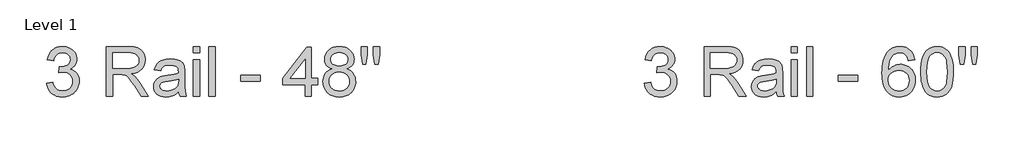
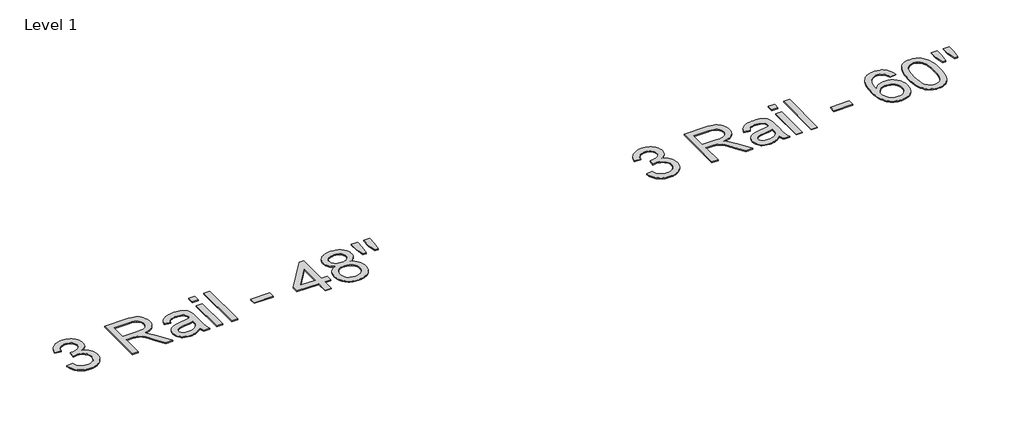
# One storey, part 2 of 3: 2 proxies.
"""IFC4 building model written with IfcOpenShell, lengths in millimetres."""

from ifc_helpers import new_model, si_unit, origin, origin_with_axes, place, context, project, spatial, polyline, outline, extrude, element, save

model = new_model("IFC4")

# Units and contexts
model_context = context("Model", 3, world=origin())
ifc_project = project(units=[si_unit("LENGTHUNIT", "METRE", prefix="MILLI")], contexts=[model_context])

# Site, building, storey
site = spatial("IfcSite", under=ifc_project)
building = spatial("IfcBuilding", under=site)
storey = spatial("IfcBuildingStorey", under=building, Name="Level 1", Elevation=0.0)

# Proxies
placement = place(None, origin())
element("IfcBuildingElementProxy", 1, Name="50\" Arial", ObjectType="50\" Arial", at=placement, inside=storey, context=model_context, shape_type="SweptSolid", body=[
    extrude(outline(polyline([(52131.2034277, -37631.695131), (52289.8321225, -37611.8665441), (52305.5265264, -37665.7561508), (52325.3454314, -37711.5516663), (52349.2888373, -37749.2530907), (52377.3567441, -37778.860424), (52410.1881592, -37801.2256758), (52448.4220896, -37817.2008556), (52492.0585354, -37826.7859635), (52541.0974965, -37829.9809995), (52598.5694162, -37825.5854046), (52649.8449025, -37812.3986198), (52694.9239555, -37790.4206451), (52733.806575, -37759.6514805), (52765.1179275, -37722.3954247), (52787.4831793, -37680.9567764), (52800.9023303, -37635.3355356), (52805.3753807, -37585.5317022), (52800.941058, -37538.099941), (52787.6380901, -37494.9475916), (52765.4664769, -37456.074654), (52734.4262183, -37421.4811282), (52696.5505192, -37393.0840358), (52653.8725842, -37372.8003983), (52606.3924134, -37360.6302159), (52554.1100066, -37356.5734884), (52503.9963516, -37360.9109918), (52442.8840273, -37373.9235019), (52460.5438624, -37215.294807), (52485.9492393, -37217.1537371), (52534.7267884, -37214.3072505), (52580.9870365, -37205.7677907), (52624.7299835, -37191.5353578), (52665.9556294, -37171.6099516), (52700.9267503, -37145.7785699), (52725.9061224, -37113.8282103), (52740.8937457, -37075.7588726), (52745.8896201, -37031.570557), (52742.2685793, -36995.6990168), (52731.4054571, -36963.0612403), (52713.3002532, -36933.6572275), (52687.9529679, -36907.4869783), (52656.8933455, -36886.0027819), (52621.6511306, -36870.6569273), (52582.2263232, -36861.4494146), (52538.6189232, -36858.3802437), (52495.1277063, -36861.4784604), (52455.4318049, -36870.7731105), (52419.5312189, -36886.264194), (52387.4259484, -36907.9517108), (52359.9099114, -36935.8356611), (52337.7770259, -36969.9160447), (52321.0272918, -37010.1928618), (52309.6607093, -37056.6661122), (52151.0320145, -37036.8375254), (52169.8343171, -36961.105491), (52197.7376312, -36894.3970128), (52234.7419569, -36836.7120907), (52256.656999, -36811.2534632), (52280.8472941, -36788.0507247), (52334.6013537, -36749.4198353), (52394.5518468, -36721.8263428), (52460.6987733, -36705.2702473), (52533.0421331, -36699.7515489), (52583.9206604, -36702.4721704), (52632.765983, -36710.634035), (52679.5781009, -36724.2371427), (52724.3570141, -36743.2814934), (52765.5439323, -36767.0409427), (52801.5800652, -36794.789346), (52832.4654129, -36826.5267033), (52858.1999753, -36862.2530146), (52878.4642489, -36900.5450365), (52892.93873, -36939.9795259), (52901.6234187, -36980.5564827), (52904.5183149, -37022.2759069), (52901.7686476, -37061.5070758), (52893.5196457, -37098.9567701), (52879.7713091, -37134.6249898), (52860.5236379, -37168.5117349), (52835.8928151, -37199.8230874), (52805.995024, -37227.7651292), (52770.8302645, -37252.3378604), (52730.3985366, -37273.5412809), (52783.261859, -37290.0780125), (52829.6963817, -37313.6631871), (52869.7021048, -37344.2968047), (52903.2790283, -37381.9788653), (52929.8462364, -37425.7799038), (52948.8228137, -37474.7704553), (52960.20876, -37528.9505198), (52964.0040755, -37588.3200972), (52962.1064178, -37629.3521046), (52956.4134446, -37668.7962759), (52946.925156, -37706.6526112), (52933.6415519, -37742.9211104), (52916.5626323, -37777.6017735), (52895.6883974, -37810.6946006), (52871.0188469, -37842.1995916), (52842.553981, -37872.1167466), (52811.1893779, -37899.4197812), (52777.8206159, -37923.0824112), (52742.447695, -37943.1046366), (52705.0706151, -37959.4864574), (52665.6893764, -37972.2278736), (52624.3039787, -37981.3288851), (52580.914422, -37986.789492), (52535.5207065, -37988.6096943), (52494.508063, -37987.055745), (52455.276894, -37982.3938971), (52417.8271997, -37974.6241505), (52382.15898, -37963.7465053), (52348.2722349, -37949.7609615), (52316.1669644, -37932.6675191), (52285.8431685, -37912.4661781), (52257.3008472, -37889.1569384), (52231.135439, -37863.3788073), (52207.9423824, -37835.770792), (52187.7216775, -37806.3328924), (52170.4733243, -37775.0651086), (52156.1973227, -37741.9674405), (52144.8936727, -37707.0398882), (52136.5623743, -37670.2824517), (52131.2034277, -37631.695131)])), origin_with_axes(), (0.0, 0.0, 1.0), 25.4),
    extrude(outline(polyline([(53658.0046154, -37968.7811075), (53658.0046154, -36699.7515489), (54204.8398622, -36699.7515489), (54283.3312458, -36701.8912548), (54351.8115167, -36708.3103725), (54410.2806749, -36719.008902), (54458.7387204, -36733.9868433), (54500.003094, -36754.3963458), (54536.8912366, -36781.3895588), (54569.403148, -36814.9664822), (54597.5388284, -36855.1271162), (54620.2429476, -36899.7123908), (54636.4601756, -36946.5632364), (54646.1905124, -36995.6796529), (54649.433958, -37047.0616405), (54644.0604885, -37112.2403742), (54627.9400797, -37172.0746841), (54601.0727318, -37226.5645703), (54563.4584447, -37275.7100326), (54540.5001749, -37297.8864868), (54514.6131221, -37317.942599), (54485.7972864, -37335.878369), (54454.0526677, -37351.6937971), (54381.7770813, -37376.963627), (54297.7863631, -37393.7520887), (54350.0687698, -37427.9099278), (54387.9444689, -37461.6030344), (54452.9295641, -37538.6711747), (54516.5204618, -37624.8790542), (54728.1286621, -37968.7811075), (54543.7847687, -37968.7811075), (54378.6498188, -37705.74251), (54312.5803478, -37605.3602891), (54259.368476, -37531.6227317), (54215.0252496, -37480.8507056), (54175.5617144, -37449.3650784), (54138.1894755, -37430.8919614), (54100.1201379, -37419.1574656), (54063.0189929, -37414.9748731), (54008.103102, -37413.5806756), (53816.6333102, -37413.5806756), (53816.6333102, -37968.7811075), (53658.0046154, -37968.7811075)]), holes=[polyline([(53816.6333102, -37254.9519808), (54171.6889435, -37254.9519808), (54273.6590005, -37249.336463), (54316.0755235, -37242.3170658), (54352.7797094, -37232.4899097), (54384.5945221, -37219.5742189), (54412.3429254, -37203.2892174), (54436.0249193, -37183.6349052), (54455.6405037, -37160.6112824), (54471.025086, -37135.3511344), (54482.0140733, -37108.9872467), (54488.6074657, -37081.5196193), (54490.8052632, -37052.9482522), (54486.6129887, -37012.3809773), (54474.0361653, -36975.5702902), (54453.074793, -36942.5161908), (54423.7288717, -36913.2186792), (54385.3206666, -36889.2268637), (54337.1724428, -36872.0898526), (54279.2842002, -36861.8076459), (54211.6559389, -36858.3802437), (53816.6333102, -36858.3802437), (53816.6333102, -37254.9519808)])]), origin_with_axes(), (0.0, 0.0, 1.0), 25.4),
    extrude(outline(polyline([(55502.0631927, -37849.8095864), (55464.4489057, -37885.1098928), (55426.2730668, -37914.7946816), (55387.5356762, -37938.8639525), (55348.2367338, -37957.3177057), (55307.930871, -37971.0079507), (55266.1727191, -37980.7866972), (55222.9622781, -37986.653945), (55178.299548, -37988.6096943), (55107.6698893, -37983.9042777), (55045.7346011, -37969.7880279), (54992.4936836, -37946.2609449), (54969.1336138, -37930.9683409), (54947.9471367, -37913.3230286), (54912.7726953, -37873.0655754), (54887.6480942, -37827.5798816), (54872.5733336, -37776.865947), (54867.5484134, -37720.9237718), (54869.4460712, -37687.2887568), (54875.1390443, -37655.1641224), (54884.627333, -37624.5498687), (54897.910937, -37595.4459956), (54914.2830759, -37568.4915104), (54933.0369688, -37544.3254201), (54954.1726159, -37522.9477249), (54977.690017, -37504.3584248), (55030.1660623, -37474.150812), (55088.7610855, -37452.3083843), (55145.8457281, -37440.1478837), (55226.0120851, -37428.4521157), (55388.2037292, -37403.3565605), (55450.8264341, -37389.1822191), (55501.1337277, -37373.9235019), (55502.0631927, -37338.6038315), (55499.3328893, -37300.1472168), (55491.1419789, -37267.80958), (55477.4904616, -37241.5909213), (55458.3783373, -37221.4912404), (55425.3436018, -37201.4302873), (55385.1055125, -37187.1010351), (55337.6640693, -37178.5034838), (55283.0192723, -37175.6376333), (55232.2085185, -37177.544973), (55188.5236631, -37183.266992), (55151.9647061, -37192.8036902), (55122.5316475, -37206.1550678), (55098.3461934, -37224.3667728), (55077.53005, -37248.4844534), (55060.0832172, -37278.5081096), (55046.0056951, -37314.4377413), (54887.3770003, -37294.6091545), (54899.4503635, -37248.9104582), (54914.9124012, -37207.859087), (54933.7631134, -37171.4550408), (54956.0025001, -37139.6983197), (54982.5890721, -37111.9499164), (55014.4813402, -37087.5708238), (55051.6793044, -37066.5610418), (55094.1829647, -37048.9205705), (55141.1306296, -37034.9592315), (55191.6606075, -37024.9868465), (55245.7728985, -37019.0034155), (55303.4675025, -37017.0089385), (55359.8647283, -37018.7710493), (55410.7045279, -37024.0573815), (55455.9869013, -37032.8679352), (55495.7118485, -37045.2027104), (55530.208555, -37060.2000156), (55559.8062064, -37076.9981593), (55584.5048026, -37095.5971414), (55604.3043437, -37115.9969619), (55620.356979, -37138.7010812), (55633.8148577, -37164.2129593), (55644.67798, -37192.5325963), (55652.9463458, -37223.6599921), (55658.7555021, -37278.4984276), (55660.6918876, -37362.4601001), (55660.6918876, -37559.8165036), (55662.7057284, -37731.7288025), (55668.747251, -37835.4028787), (55680.6753853, -37903.5249183), (55700.3490613, -37968.7811075), (55541.7203664, -37968.7811075), (55527.6234805, -37942.2913547), (55516.3149895, -37913.6328503), (55507.7948936, -37882.8055942), (55502.0631927, -37849.8095864)]), holes=[polyline([(55502.0631927, -37532.5521967), (55454.1182894, -37546.2811694), (55395.4845384, -37558.964494), (55246.1504937, -37581.1941988), (55163.8541127, -37593.3546994), (55109.6740482, -37606.9093974), (55074.1607393, -37624.4917772), (55047.8646251, -37648.7353228), (55031.5989875, -37677.7811043), (55026.1771083, -37709.7701917), (55029.130096, -37734.4203783), (55037.9890594, -37756.9405409), (55052.7539983, -37777.3306795), (55073.4249129, -37795.5907942), (55099.8081644, -37810.636509), (55131.7101145, -37821.3834482), (55169.130763, -37827.8316117), (55212.07011, -37829.9809995), (55255.9098763, -37827.6089273), (55297.2710691, -37820.4927109), (55336.1536887, -37808.6323501), (55372.5577349, -37792.027845), (55405.3988318, -37772.0540292), (55433.5926038, -37750.0857365), (55457.1390506, -37726.1229667), (55476.0381725, -37700.1657199), (55487.0174779, -37676.9290947), (55494.8598389, -37648.7353228), (55499.5652555, -37615.5844042), (55501.1337277, -37577.4763388), (55502.0631927, -37532.5521967)])]), origin_with_axes(), (0.0, 0.0, 1.0), 25.4),
    extrude(outline(polyline([(55878.806343, -36858.3802437), (55878.806343, -36699.7515489), (56037.4350378, -36699.7515489), (56037.4350378, -36858.3802437), (55878.806343, -36858.3802437)])), origin_with_axes(), (0.0, 0.0, 1.0), 25.4),
    extrude(outline(polyline([(55878.806343, -37968.7811075), (55878.806343, -37036.8375254), (56037.4350378, -37036.8375254), (56037.4350378, -37968.7811075), (55878.806343, -37968.7811075)])), origin_with_axes(), (0.0, 0.0, 1.0), 25.4),
    extrude(outline(polyline([(56275.37808, -37968.7811075), (56275.37808, -36699.7515489), (56434.0067748, -36699.7515489), (56434.0067748, -37968.7811075), (56275.37808, -37968.7811075)])), origin_with_axes(), (0.0, 0.0, 1.0), 25.4),
    extrude(outline(polyline([(57088.350141, -37592.0379573), (57088.350141, -37433.4092624), (57584.0648123, -37433.4092624), (57584.0648123, -37592.0379573), (57088.350141, -37592.0379573)])), origin_with_axes(), (0.0, 0.0, 1.0), 25.4),
    extrude(outline(polyline([(58734.1228498, -37968.7811075), (58734.1228498, -37671.3523047), (58159.0938311, -37671.3523047), (58159.0938311, -37512.7236099), (58773.7800235, -36719.5801357), (58892.7515447, -36719.5801357), (58892.7515447, -37512.7236099), (59051.3802395, -37512.7236099), (59051.3802395, -37671.3523047), (58892.7515447, -37671.3523047), (58892.7515447, -37968.7811075), (58734.1228498, -37968.7811075)]), holes=[polyline([(58734.1228498, -37512.7236099), (58734.1228498, -37022.5857286), (58354.2814829, -37512.7236099), (58734.1228498, -37512.7236099)])]), origin_with_axes(), (0.0, 0.0, 1.0), 25.4),
    extrude(outline(polyline([(59421.307313, -37269.8234209), (59375.6763902, -37250.7693882), (59336.3774478, -37227.9974955), (59303.4104858, -37201.5077428), (59276.7755041, -37171.30013), (59256.2401366, -37137.665115), (59241.5720169, -37100.8931556), (59232.7711451, -37060.9842517), (59229.8375212, -37017.9384035), (59231.4350392, -36984.9181909), (59236.2275931, -36953.2437661), (59244.215183, -36922.9151293), (59255.3978089, -36893.9322803), (59269.7754708, -36866.2952192), (59287.3481686, -36840.0039459), (59308.1159024, -36815.0584605), (59332.0786721, -36791.4587631), (59358.6991309, -36769.9648847), (59387.4399317, -36751.3368568), (59418.3010746, -36735.5746794), (59451.2825595, -36722.6783524), (59486.3843865, -36712.6478759), (59523.6065555, -36705.4832497), (59604.4119197, -36699.7515489), (59685.604561, -36705.6187967), (59723.0784601, -36712.9528566), (59758.4707449, -36723.2205403), (59791.7814153, -36736.421848), (59823.0104715, -36752.5567797), (59852.1579132, -36771.6253352), (59879.2237406, -36793.6275147), (59903.6221971, -36817.7355134), (59924.7675261, -36843.1215265), (59942.6597275, -36869.7855539), (59957.2988014, -36897.7275957), (59968.6847477, -36926.9476519), (59976.8175665, -36957.4457225), (59981.6972578, -36989.2218075), (59983.3238216, -37022.2759069), (59980.4289254, -37063.8016925), (59971.7442367, -37102.558447), (59957.2697556, -37138.5461703), (59937.005482, -37171.7648625), (59910.8545967, -37201.7691548), (59878.7202804, -37228.1136786), (59840.6025331, -37250.798434), (59796.5013548, -37269.8234209), (59848.6385327, -37292.0047161), (59894.1339085, -37320.1307145), (59932.9874822, -37354.2014162), (59965.1992539, -37394.2168212), (59990.4787658, -37439.2861922), (60008.53556, -37488.5187919), (60019.3696365, -37541.9146203), (60022.9809953, -37599.4736773), (60021.1898388, -37639.8569956), (60015.8163692, -37678.5943862), (60006.8605866, -37715.6858492), (59994.3224909, -37751.1313846), (59978.2020821, -37784.9309924), (59958.4993603, -37817.0846725), (59935.2143255, -37847.592425), (59908.3469776, -37876.4542499), (59878.5556877, -37902.7406822), (59846.4988268, -37925.5222569), (59812.1763949, -37944.7989739), (59775.5883921, -37960.5708332), (59736.7348184, -37972.837835), (59695.6156737, -37981.5999791), (59652.230958, -37986.8572655), (59606.5806714, -37988.6096943), (59560.9303848, -37986.8500041), (59517.5456691, -37981.5709333), (59476.4265244, -37972.772482), (59437.5729506, -37960.4546501), (59400.9849478, -37944.6174377), (59366.662516, -37925.2608448), (59334.6056551, -37902.3848714), (59304.8143652, -37875.9895174), (59277.9470173, -37846.9655203), (59254.6619825, -37816.2036171), (59234.9592607, -37783.7038081), (59218.8388519, -37749.4660931), (59206.3007562, -37713.4904722), (59197.3449736, -37675.7769454), (59191.971504, -37636.3255126), (59190.1803475, -37595.136174), (59193.9369352, -37534.9533146), (59205.2066984, -37479.8825129), (59223.9896372, -37429.9237687), (59250.2857514, -37385.077082), (59283.5141254, -37346.1557347), (59323.0938437, -37313.9730088), (59369.0249062, -37288.5289042), (59421.307313, -37269.8234209)]), holes=[polyline([(59388.466216, -37022.5857286), (59391.9807556, -37058.951047), (59402.5243743, -37091.8308717), (59420.0970721, -37121.2252026), (59444.698849, -37147.1340397), (59476.0198834, -37168.2793687), (59513.7503536, -37183.3831751), (59557.8902596, -37192.4454589), (59608.4396014, -37195.4662202), (59657.7399746, -37192.4648228), (59700.9213698, -37183.4606305), (59737.983787, -37168.4536434), (59768.9272263, -37147.4438614), (59793.3256827, -37122.0772122), (59810.7531516, -37093.9996234), (59821.209633, -37063.211095), (59824.6951268, -37029.711627), (59821.0934499, -36994.9050988), (59810.2884191, -36962.9837849), (59792.2800346, -36933.9476853), (59767.0682962, -36907.7968), (59735.4277582, -36886.1770566), (59698.1329748, -36870.7343828), (59655.1839458, -36861.4687785), (59606.5806714, -36858.3802437), (59557.5998018, -36861.401005), (59514.4474524, -36870.4632888), (59477.1236231, -36885.5670952), (59445.628314, -36906.7124241), (59420.6198962, -36932.0790733), (59402.7567405, -36959.8468405), (59392.0388471, -36990.0157256), (59388.466216, -37022.5857286)]), polyline([(59348.8090423, -37589.5593839), (59350.4646518, -37620.1445919), (59355.4314805, -37650.2457034), (59363.7095282, -37679.8627187), (59375.298795, -37708.9956375), (59391.0900183, -37736.2502625), (59411.9739352, -37760.2323961), (59437.9505458, -37780.9420384), (59469.0198501, -37798.3791892), (59502.9065952, -37812.2049812), (59537.3355282, -37822.0805469), (59572.3066492, -37828.0058864), (59607.8199581, -37829.9809995), (59665.1756947, -37825.8274527), (59715.7928099, -37813.3668125), (59759.6713039, -37792.5990787), (59796.8111765, -37763.5242514), (59826.3604183, -37728.0399883), (59847.4670195, -37688.0439471), (59860.1309802, -37643.5361279), (59864.3523005, -37594.5165306), (59859.9954333, -37544.7126972), (59846.9248316, -37499.4012781), (59825.1404954, -37458.5822731), (59794.6424248, -37422.2556823), (59756.4956318, -37392.4353466), (59711.7651282, -37371.1351068), (59660.4509142, -37358.354963), (59602.5529897, -37354.094915), (59546.0395808, -37358.2968714), (59496.0905185, -37370.9027406), (59452.7058028, -37391.9125226), (59415.8854338, -37421.3262173), (59386.5395125, -37457.0525286), (59365.5781402, -37497.0001601), (59353.0013168, -37541.1691119), (59348.8090423, -37589.5593839)])]), origin_with_axes(), (0.0, 0.0, 1.0), 25.4),
    extrude(outline(polyline([(60200.508812, -37155.8090465), (60161.7811033, -36910.7401058), (60161.7811033, -36699.7515489), (60320.4097981, -36699.7515489), (60320.4097981, -36910.7401058), (60285.7097711, -37155.8090465), (60200.508812, -37155.8090465)])), origin_with_axes(), (0.0, 0.0, 1.0), 25.4),
    extrude(outline(polyline([(60516.8367366, -37155.8090465), (60479.0384929, -36910.7401058), (60479.0384929, -36699.7515489), (60637.6671878, -36699.7515489), (60637.6671878, -36910.7401058), (60600.4885874, -37155.8090465), (60516.8367366, -37155.8090465)])), origin_with_axes(), (0.0, 0.0, 1.0), 25.4),
])
element("IfcBuildingElementProxy", 2, Name="50\" Arial", ObjectType="50\" Arial", at=placement, inside=storey, context=model_context, shape_type="SweptSolid", body=[
    extrude(outline(polyline([(67396.6034277, -37631.695131), (67555.2321225, -37611.8665441), (67570.9265264, -37665.7561508), (67590.7454314, -37711.5516663), (67614.6888373, -37749.2530907), (67642.7567441, -37778.860424), (67675.5881592, -37801.2256758), (67713.8220896, -37817.2008556), (67757.4585354, -37826.7859635), (67806.4974965, -37829.9809995), (67863.9694162, -37825.5854046), (67915.2449025, -37812.3986198), (67960.3239555, -37790.4206451), (67999.206575, -37759.6514805), (68030.5179275, -37722.3954247), (68052.8831793, -37680.9567764), (68066.3023303, -37635.3355356), (68070.7753807, -37585.5317022), (68066.341058, -37538.099941), (68053.0380901, -37494.9475916), (68030.8664769, -37456.074654), (67999.8262183, -37421.4811282), (67961.9505192, -37393.0840358), (67919.2725842, -37372.8003983), (67871.7924134, -37360.6302159), (67819.5100066, -37356.5734884), (67769.3963516, -37360.9109918), (67708.2840273, -37373.9235019), (67725.9438624, -37215.294807), (67751.3492393, -37217.1537371), (67800.1267884, -37214.3072505), (67846.3870365, -37205.7677907), (67890.1299835, -37191.5353578), (67931.3556294, -37171.6099516), (67966.3267503, -37145.7785699), (67991.3061224, -37113.8282103), (68006.2937457, -37075.7588726), (68011.2896201, -37031.570557), (68007.6685793, -36995.6990168), (67996.8054571, -36963.0612403), (67978.7002532, -36933.6572275), (67953.3529679, -36907.4869783), (67922.2933455, -36886.0027819), (67887.0511306, -36870.6569273), (67847.6263232, -36861.4494146), (67804.0189232, -36858.3802437), (67760.5277063, -36861.4784604), (67720.8318049, -36870.7731105), (67684.9312189, -36886.264194), (67652.8259484, -36907.9517108), (67625.3099114, -36935.8356611), (67603.1770259, -36969.9160447), (67586.4272918, -37010.1928618), (67575.0607093, -37056.6661122), (67416.4320145, -37036.8375254), (67435.2343171, -36961.105491), (67463.1376312, -36894.3970128), (67500.1419569, -36836.7120907), (67522.056999, -36811.2534632), (67546.2472941, -36788.0507247), (67600.0013537, -36749.4198353), (67659.9518468, -36721.8263428), (67726.0987733, -36705.2702473), (67798.4421331, -36699.7515489), (67849.3206604, -36702.4721704), (67898.165983, -36710.634035), (67944.9781009, -36724.2371427), (67989.7570141, -36743.2814934), (68030.9439323, -36767.0409427), (68066.9800652, -36794.789346), (68097.8654129, -36826.5267033), (68123.5999753, -36862.2530146), (68143.8642489, -36900.5450365), (68158.33873, -36939.9795259), (68167.0234187, -36980.5564827), (68169.9183149, -37022.2759069), (68167.1686476, -37061.5070758), (68158.9196457, -37098.9567701), (68145.1713091, -37134.6249898), (68125.9236379, -37168.5117349), (68101.2928151, -37199.8230874), (68071.395024, -37227.7651292), (68036.2302645, -37252.3378604), (67995.7985366, -37273.5412809), (68048.661859, -37290.0780125), (68095.0963817, -37313.6631871), (68135.1021048, -37344.2968047), (68168.6790283, -37381.9788653), (68195.2462364, -37425.7799038), (68214.2228137, -37474.7704553), (68225.60876, -37528.9505198), (68229.4040755, -37588.3200972), (68227.5064178, -37629.3521046), (68221.8134446, -37668.7962759), (68212.325156, -37706.6526112), (68199.0415519, -37742.9211104), (68181.9626323, -37777.6017735), (68161.0883974, -37810.6946006), (68136.4188469, -37842.1995916), (68107.953981, -37872.1167466), (68076.5893779, -37899.4197812), (68043.2206159, -37923.0824112), (68007.847695, -37943.1046366), (67970.4706151, -37959.4864574), (67931.0893764, -37972.2278736), (67889.7039787, -37981.3288851), (67846.314422, -37986.789492), (67800.9207065, -37988.6096943), (67759.908063, -37987.055745), (67720.676894, -37982.3938971), (67683.2271997, -37974.6241505), (67647.55898, -37963.7465053), (67613.6722349, -37949.7609615), (67581.5669644, -37932.6675191), (67551.2431685, -37912.4661781), (67522.7008472, -37889.1569384), (67496.535439, -37863.3788073), (67473.3423824, -37835.770792), (67453.1216775, -37806.3328924), (67435.8733243, -37775.0651086), (67421.5973227, -37741.9674405), (67410.2936727, -37707.0398882), (67401.9623743, -37670.2824517), (67396.6034277, -37631.695131)])), origin_with_axes(), (0.0, 0.0, 1.0), 25.4),
    extrude(outline(polyline([(68923.4046154, -37968.7811075), (68923.4046154, -36699.7515489), (69470.2398622, -36699.7515489), (69548.7312458, -36701.8912548), (69617.2115167, -36708.3103725), (69675.6806749, -36719.008902), (69724.1387204, -36733.9868433), (69765.403094, -36754.3963458), (69802.2912366, -36781.3895588), (69834.803148, -36814.9664822), (69862.9388284, -36855.1271162), (69885.6429476, -36899.7123908), (69901.8601756, -36946.5632364), (69911.5905124, -36995.6796529), (69914.833958, -37047.0616405), (69909.4604885, -37112.2403742), (69893.3400797, -37172.0746841), (69866.4727318, -37226.5645703), (69828.8584447, -37275.7100326), (69805.9001749, -37297.8864868), (69780.0131221, -37317.942599), (69751.1972864, -37335.878369), (69719.4526677, -37351.6937971), (69647.1770813, -37376.963627), (69563.1863631, -37393.7520887), (69615.4687698, -37427.9099278), (69653.3444689, -37461.6030344), (69718.3295641, -37538.6711747), (69781.9204618, -37624.8790542), (69993.5286621, -37968.7811075), (69809.1847687, -37968.7811075), (69644.0498188, -37705.74251), (69577.9803478, -37605.3602891), (69524.768476, -37531.6227317), (69480.4252496, -37480.8507056), (69440.9617144, -37449.3650784), (69403.5894755, -37430.8919614), (69365.5201379, -37419.1574656), (69328.4189929, -37414.9748731), (69273.503102, -37413.5806756), (69082.0333102, -37413.5806756), (69082.0333102, -37968.7811075), (68923.4046154, -37968.7811075)]), holes=[polyline([(69082.0333102, -37254.9519808), (69437.0889435, -37254.9519808), (69539.0590005, -37249.336463), (69581.4755235, -37242.3170658), (69618.1797094, -37232.4899097), (69649.9945221, -37219.5742189), (69677.7429254, -37203.2892174), (69701.4249193, -37183.6349052), (69721.0405037, -37160.6112824), (69736.425086, -37135.3511344), (69747.4140733, -37108.9872467), (69754.0074657, -37081.5196193), (69756.2052632, -37052.9482522), (69752.0129887, -37012.3809773), (69739.4361653, -36975.5702902), (69718.474793, -36942.5161908), (69689.1288717, -36913.2186792), (69650.7206666, -36889.2268637), (69602.5724428, -36872.0898526), (69544.6842002, -36861.8076459), (69477.0559389, -36858.3802437), (69082.0333102, -36858.3802437), (69082.0333102, -37254.9519808)])]), origin_with_axes(), (0.0, 0.0, 1.0), 25.4),
    extrude(outline(polyline([(70767.4631927, -37849.8095864), (70729.8489057, -37885.1098928), (70691.6730668, -37914.7946816), (70652.9356762, -37938.8639525), (70613.6367338, -37957.3177057), (70573.330871, -37971.0079507), (70531.5727191, -37980.7866972), (70488.3622781, -37986.653945), (70443.699548, -37988.6096943), (70373.0698893, -37983.9042777), (70311.1346011, -37969.7880279), (70257.8936836, -37946.2609449), (70234.5336138, -37930.9683409), (70213.3471367, -37913.3230286), (70178.1726953, -37873.0655754), (70153.0480942, -37827.5798816), (70137.9733336, -37776.865947), (70132.9484134, -37720.9237718), (70134.8460712, -37687.2887568), (70140.5390443, -37655.1641224), (70150.027333, -37624.5498687), (70163.310937, -37595.4459956), (70179.6830759, -37568.4915104), (70198.4369688, -37544.3254201), (70219.5726159, -37522.9477249), (70243.090017, -37504.3584248), (70295.5660623, -37474.150812), (70354.1610855, -37452.3083843), (70411.2457281, -37440.1478837), (70491.4120851, -37428.4521157), (70653.6037292, -37403.3565605), (70716.2264341, -37389.1822191), (70766.5337277, -37373.9235019), (70767.4631927, -37338.6038315), (70764.7328893, -37300.1472168), (70756.5419789, -37267.80958), (70742.8904616, -37241.5909213), (70723.7783373, -37221.4912404), (70690.7436018, -37201.4302873), (70650.5055125, -37187.1010351), (70603.0640693, -37178.5034838), (70548.4192723, -37175.6376333), (70497.6085185, -37177.544973), (70453.9236631, -37183.266992), (70417.3647061, -37192.8036902), (70387.9316475, -37206.1550678), (70363.7461934, -37224.3667728), (70342.93005, -37248.4844534), (70325.4832172, -37278.5081096), (70311.4056951, -37314.4377413), (70152.7770003, -37294.6091545), (70164.8503635, -37248.9104582), (70180.3124012, -37207.859087), (70199.1631134, -37171.4550408), (70221.4025001, -37139.6983197), (70247.9890721, -37111.9499164), (70279.8813402, -37087.5708238), (70317.0793044, -37066.5610418), (70359.5829647, -37048.9205705), (70406.5306296, -37034.9592315), (70457.0606075, -37024.9868465), (70511.1728985, -37019.0034155), (70568.8675025, -37017.0089385), (70625.2647283, -37018.7710493), (70676.1045279, -37024.0573815), (70721.3869013, -37032.8679352), (70761.1118485, -37045.2027104), (70795.608555, -37060.2000156), (70825.2062064, -37076.9981593), (70849.9048026, -37095.5971414), (70869.7043437, -37115.9969619), (70885.756979, -37138.7010812), (70899.2148577, -37164.2129593), (70910.07798, -37192.5325963), (70918.3463458, -37223.6599921), (70924.1555021, -37278.4984276), (70926.0918876, -37362.4601001), (70926.0918876, -37559.8165036), (70928.1057284, -37731.7288025), (70934.147251, -37835.4028787), (70946.0753853, -37903.5249183), (70965.7490613, -37968.7811075), (70807.1203664, -37968.7811075), (70793.0234805, -37942.2913547), (70781.7149895, -37913.6328503), (70773.1948936, -37882.8055942), (70767.4631927, -37849.8095864)]), holes=[polyline([(70767.4631927, -37532.5521967), (70719.5182894, -37546.2811694), (70660.8845384, -37558.964494), (70511.5504937, -37581.1941988), (70429.2541127, -37593.3546994), (70375.0740482, -37606.9093974), (70339.5607393, -37624.4917772), (70313.2646251, -37648.7353228), (70296.9989875, -37677.7811043), (70291.5771083, -37709.7701917), (70294.530096, -37734.4203783), (70303.3890594, -37756.9405409), (70318.1539983, -37777.3306795), (70338.8249129, -37795.5907942), (70365.2081644, -37810.636509), (70397.1101145, -37821.3834482), (70434.530763, -37827.8316117), (70477.47011, -37829.9809995), (70521.3098763, -37827.6089273), (70562.6710691, -37820.4927109), (70601.5536887, -37808.6323501), (70637.9577349, -37792.027845), (70670.7988318, -37772.0540292), (70698.9926038, -37750.0857365), (70722.5390506, -37726.1229667), (70741.4381725, -37700.1657199), (70752.4174779, -37676.9290947), (70760.2598389, -37648.7353228), (70764.9652555, -37615.5844042), (70766.5337277, -37577.4763388), (70767.4631927, -37532.5521967)])]), origin_with_axes(), (0.0, 0.0, 1.0), 25.4),
    extrude(outline(polyline([(71144.206343, -36858.3802437), (71144.206343, -36699.7515489), (71302.8350378, -36699.7515489), (71302.8350378, -36858.3802437), (71144.206343, -36858.3802437)])), origin_with_axes(), (0.0, 0.0, 1.0), 25.4),
    extrude(outline(polyline([(71144.206343, -37968.7811075), (71144.206343, -37036.8375254), (71302.8350378, -37036.8375254), (71302.8350378, -37968.7811075), (71144.206343, -37968.7811075)])), origin_with_axes(), (0.0, 0.0, 1.0), 25.4),
    extrude(outline(polyline([(71540.77808, -37968.7811075), (71540.77808, -36699.7515489), (71699.4067748, -36699.7515489), (71699.4067748, -37968.7811075), (71540.77808, -37968.7811075)])), origin_with_axes(), (0.0, 0.0, 1.0), 25.4),
    extrude(outline(polyline([(72353.750141, -37592.0379573), (72353.750141, -37433.4092624), (72849.4648123, -37433.4092624), (72849.4648123, -37592.0379573), (72353.750141, -37592.0379573)])), origin_with_axes(), (0.0, 0.0, 1.0), 25.4),
    extrude(outline(polyline([(74296.9516526, -37036.8375254), (74138.3229578, -37056.6661122), (74126.6659175, -37014.2399073), (74112.7626701, -36978.0488636), (74096.6132155, -36948.0929809), (74078.2175539, -36924.3722593), (74044.1178064, -36895.5007525), (74006.2614712, -36874.8782476), (73964.6485482, -36862.5047447), (73919.2790374, -36858.3802437), (73881.8680708, -36860.7813616), (73845.5414801, -36867.9847154), (73810.2992651, -36879.9903051), (73776.1414261, -36896.7981307), (73744.9753025, -36924.285122), (73716.5394824, -36957.4844502), (73690.8339657, -36996.3961156), (73667.8587526, -37041.0201179), (73648.8337657, -37094.2997631), (73634.9789279, -37159.1783571), (73626.2942392, -37235.6558999), (73622.7796996, -37323.7323914), (73653.0163582, -37283.8718972), (73686.409325, -37249.4913738), (73722.9586001, -37220.5908212), (73762.6641834, -37197.1702394), (73804.4610631, -37179.0747175), (73847.2842269, -37166.1493447), (73891.1336751, -37158.394121), (73936.0094076, -37155.8090465), (73974.8532994, -37157.5759982), (74012.2255383, -37162.8768533), (74048.1261243, -37171.7116119), (74082.5550573, -37184.0802738), (74115.5123374, -37199.9828392), (74146.9979646, -37219.419308), (74177.0119388, -37242.3896802), (74205.5542601, -37268.8939559), (74231.622849, -37298.1963085), (74254.2156261, -37329.5609116), (74273.3325913, -37362.9877651), (74288.9737447, -37398.4768692), (74301.1390861, -37436.0282237), (74309.8286158, -37475.6418288), (74315.0423336, -37517.3176843), (74316.7802395, -37561.0557903), (74313.5077481, -37618.8859413), (74303.690274, -37674.6441599), (74287.327817, -37728.3304461), (74264.4203773, -37779.9447999), (74235.7812368, -37827.5605177), (74202.2236772, -37869.2508961), (74163.7476986, -37905.0159351), (74120.353301, -37934.8556347), (74072.9699494, -37958.3730358), (74022.5271088, -37975.1711794), (73969.0247792, -37985.2500656), (73912.4629607, -37988.6096943), (73864.0363814, -37986.3828511), (73817.899578, -37979.7023213), (73774.0525503, -37968.5681051), (73732.4952984, -37952.9802023), (73693.2278222, -37932.9386131), (73656.2501219, -37908.4433373), (73621.5621973, -37879.4943751), (73589.1640485, -37846.0917263), (73559.8641164, -37807.57702), (73534.4708419, -37763.2918851), (73512.984225, -37713.2363216), (73495.4042657, -37657.4103295), (73481.7309641, -37595.8139089), (73471.96432, -37528.4470596), (73466.1043336, -37455.3097817), (73464.1510048, -37376.4020752), (73466.3197565, -37288.0496488), (73472.8260115, -37205.9420654), (73483.66977, -37130.079325), (73498.8510318, -37060.4614277), (73518.369797, -36997.0883734), (73542.2260655, -36939.9601621), (73570.4198375, -36889.0767938), (73602.9511128, -36844.4382686), (73634.5480821, -36810.5273186), (73668.7688537, -36781.1378287), (73705.6134276, -36756.2697987), (73745.0818037, -36735.9232288), (73787.1739821, -36720.0981188), (73831.8899627, -36708.7944688), (73879.2297457, -36702.0122789), (73929.1933308, -36699.7515489), (74002.2531533, -36705.3477028), (74068.3807159, -36722.1361645), (74098.8448998, -36734.7275108), (74127.5760187, -36750.116934), (74154.5740726, -36768.3044342), (74179.8390615, -36789.2900114), (74203.0175952, -36812.74448), (74223.7562832, -36838.3386544), (74242.0551256, -36866.0725348), (74257.9141223, -36895.9461211), (74282.3125788, -36962.1124114), (74296.9516526, -37036.8375254)]), holes=[polyline([(73622.7796996, -37558.5772169), (73625.0743164, -37594.1195716), (73631.9581666, -37628.8680082), (73643.4312503, -37662.8225268), (73659.4935675, -37695.9831274), (73679.360882, -37726.7910197), (73702.2489579, -37753.6874134), (73728.157795, -37776.6723085), (73757.0873934, -37795.745705), (73788.8537965, -37810.7236464), (73823.2730476, -37821.4221759), (73860.3451467, -37827.8412936), (73900.0700939, -37829.9809995), (73955.2086692, -37825.5466769), (74004.7510905, -37812.2437089), (74048.697358, -37790.0720957), (74087.0474715, -37759.0318372), (74118.1555035, -37720.3815839), (74140.3755264, -37675.3799864), (74153.7075401, -37624.0270446), (74158.1515447, -37566.3227587), (74153.7656317, -37510.8743618), (74140.6078926, -37461.6417621), (74118.6783276, -37418.6249596), (74087.9769365, -37381.8239545), (74049.5106398, -37352.3424862), (74004.286358, -37331.2842946), (73952.304091, -37318.6493796), (73893.5638388, -37314.4377413), (73839.1610901, -37318.6493796), (73789.0377531, -37331.2842946), (73743.1938279, -37352.3424862), (73701.6293145, -37381.8239545), (73667.132608, -37418.1408633), (73642.4921034, -37459.7053766), (73627.7078006, -37506.5174945), (73622.7796996, -37558.5772169)])]), origin_with_axes(), (0.0, 0.0, 1.0), 25.4),
    extrude(outline(polyline([(74455.5803475, -37344.4904433), (74458.4946075, -37237.7859239), (74467.2373878, -37141.3636111), (74481.8086882, -37055.2235051), (74502.2085087, -36979.3656057), (74528.3497121, -36913.1702696), (74560.145161, -36856.0178535), (74597.5948553, -36807.9083573), (74640.698795, -36768.8417812), (74689.6022092, -36738.6148045), (74744.4503266, -36717.0241069), (74805.2431474, -36704.0696884), (74871.9806714, -36699.7515489), (74922.1330542, -36702.3075776), (74969.7294081, -36709.975664), (75014.7697334, -36722.7558078), (75057.2540298, -36740.6480092), (75096.1560132, -36763.3521285), (75130.4493992, -36790.5680258), (75160.134188, -36822.2957011), (75185.2103793, -36858.5351545), (75206.9366239, -36899.1411571), (75226.5715722, -36943.9684799), (75244.1152243, -36993.017123), (75259.56758, -37046.2870863), (75272.1734492, -37106.4602637), (75281.1776415, -37176.218549), (75286.5801569, -37255.5619422), (75288.3809953, -37344.4904433), (75285.495781, -37450.5172278), (75276.8401381, -37546.4554441), (75262.4140666, -37632.3050924), (75242.2175665, -37708.0661725), (75216.2796836, -37774.2905544), (75184.6294637, -37831.5301079), (75147.2669067, -37879.7848329), (75104.1920127, -37919.0547295), (75055.230507, -37949.4850266), (75000.2081149, -37971.2209531), (74939.1248363, -37984.262509), (74871.9806714, -37988.6096943), (74827.0565293, -37986.7217185), (74784.6109606, -37981.0577911), (74744.6439652, -37971.6179121), (74707.1555432, -37958.4020815), (74672.1456945, -37941.4102994), (74639.6144192, -37920.6425656), (74609.5617173, -37896.0988802), (74581.9875887, -37867.7792432), (74552.3608915, -37822.9373975), (74526.6844206, -37772.218622), (74504.9581761, -37715.6229167), (74487.1821578, -37653.1502816), (74473.3563658, -37584.8007167), (74463.4808, -37510.574222), (74457.5554606, -37430.4707975), (74455.5803475, -37344.4904433)]), holes=[polyline([(74614.2090423, -37344.1806216), (74618.8563673, -37482.0803103), (74632.7983425, -37593.7032487), (74643.2548238, -37639.6609366), (74656.0349677, -37679.0494368), (74671.1387741, -37711.8687494), (74688.566243, -37738.1188745), (74727.913595, -37778.3085542), (74771.5984504, -37807.0154682), (74819.6208092, -37824.2396167), (74871.9806714, -37829.9809995), (74924.3405336, -37824.2202528), (74972.3628923, -37806.9380128), (75016.0477477, -37778.1342795), (75055.3950998, -37737.8090528), (75072.8225687, -37711.4959952), (75087.9263751, -37678.6427958), (75100.706519, -37639.2494546), (75111.1630003, -37593.3159717), (75125.1049754, -37481.8285802), (75129.7523005, -37344.1806216), (75125.2598863, -37209.9310194), (75111.7826436, -37100.2735122), (75101.6747117, -37054.6667943), (75089.3205726, -37015.2081001), (75074.7202264, -36981.8974296), (75057.8736731, -36954.7347829), (75019.1846922, -36912.579672), (74997.7779512, -36896.0187356), (74974.9963765, -36882.4688785), (74950.8399682, -36871.9301008), (74925.3087263, -36864.4024024), (74870.1217414, -36858.3802437), (74818.0329732, -36863.6859398), (74770.8238963, -36879.6030281), (74728.4945107, -36906.1315085), (74691.0448164, -36943.2713812), (74673.0364318, -36973.3240831), (74657.4291652, -37009.1084859), (74644.2230165, -37050.6245897), (74633.4179858, -37097.8723943), (74619.0112782, -37209.5631062), (74614.2090423, -37344.1806216)])]), origin_with_axes(), (0.0, 0.0, 1.0), 25.4),
    extrude(outline(polyline([(75465.908812, -37155.8090465), (75427.1811033, -36910.7401058), (75427.1811033, -36699.7515489), (75585.8097981, -36699.7515489), (75585.8097981, -36910.7401058), (75551.1097711, -37155.8090465), (75465.908812, -37155.8090465)])), origin_with_axes(), (0.0, 0.0, 1.0), 25.4),
    extrude(outline(polyline([(75782.2367366, -37155.8090465), (75744.4384929, -36910.7401058), (75744.4384929, -36699.7515489), (75903.0671878, -36699.7515489), (75903.0671878, -36910.7401058), (75865.8885874, -37155.8090465), (75782.2367366, -37155.8090465)])), origin_with_axes(), (0.0, 0.0, 1.0), 25.4),
])

save(model, "model.ifc")
